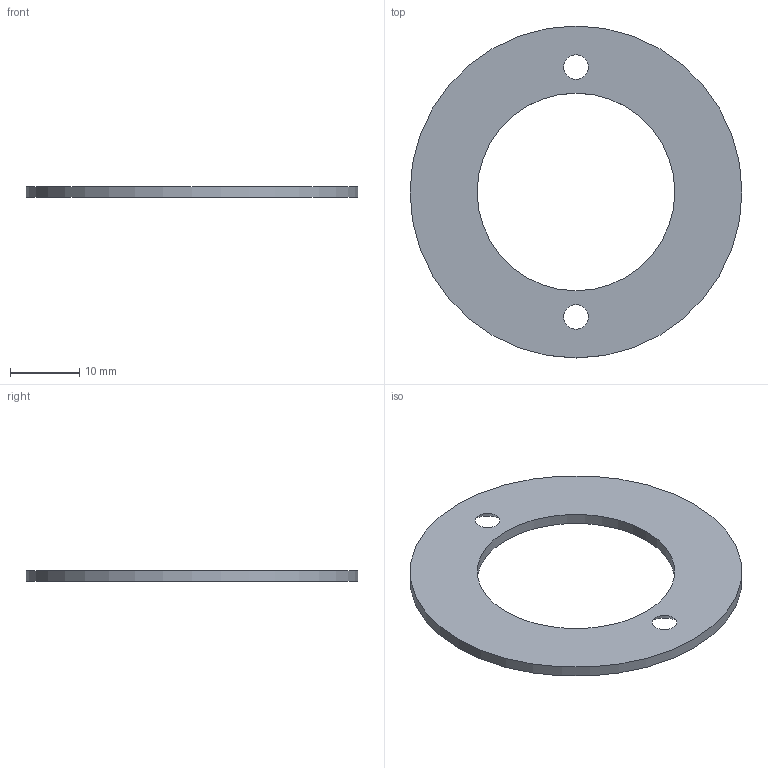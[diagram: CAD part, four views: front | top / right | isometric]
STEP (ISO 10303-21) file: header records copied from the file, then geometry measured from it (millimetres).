
FILE_DESCRIPTION(/* description */ ('STEP AP242 Edition 2','CAx-IF Rec.Pracs.---Representation and Presentation of Product Manufacturing Information (PMI)---4.0---2014-10-13','CAx-IF Rec.Pracs.---3D Tessellated Geometry---0.4---2014-09-14','2;1','CAx-IF Rec.Pracs.---User Defined Attributes---1.5---2016-08-15'),/* implementation_level */ '2;1');
FILE_NAME(/* name */ 'Main - Bottom Bearing Flange',/* time_stamp */ '2026-09-22T02:10:47Z',/* author */ (''),/* organization */ (''),/* preprocessor_version */ 'ST-DEVELOPER v20',/* originating_system */ 'ONSHAPE BY PTC INC, 1.221',/* authorisation */ ' ');
FILE_SCHEMA (('AP242_MANAGED_MODEL_BASED_3D_ENGINEERING_MIM_LF { 1 0 10303 442 3 1 4 }'));
Length unit declared in the file: metre
Products named in the file (1): Bottom Bearing Flange
Bounding box: 48.01 x 48.01 x 1.59 mm (x, y, z)
Volume: 1787.5 mm3; surface area: 2701.1 mm2
Topology: 1 solids, 1 shells, 6 faces, 14 edges, 10 vertices
Faces by surface type: cylinder 2, plane 2, cone 2
Full cylindrical faces by diameter (mm): 28.575 x1, 48.006 x1
Entity records: 178 total; most frequent: DIRECTION 30, CARTESIAN_POINT 23, ORIENTED_EDGE 16, EDGE_LOOP 16, FACE_BOUND 16, AXIS2_PLACEMENT_3D 15, EDGE_CURVE 8, VERTEX_POINT 8
